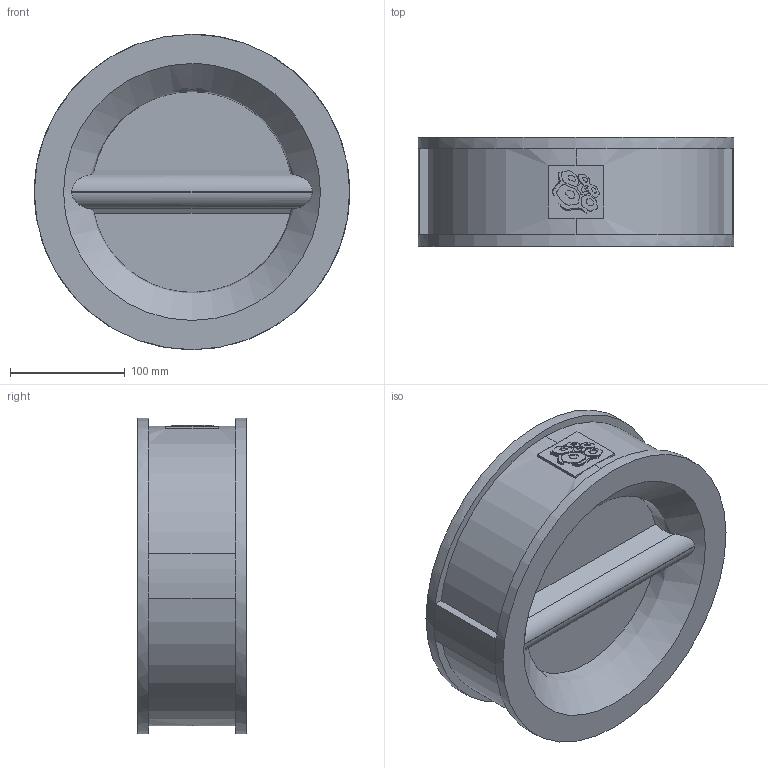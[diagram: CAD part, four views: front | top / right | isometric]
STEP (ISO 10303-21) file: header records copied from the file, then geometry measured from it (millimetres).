
FILE_DESCRIPTION(('STEP AP203'), '1');
FILE_NAME('3D_400-200-16', '', ('UNSPECIFIED'), ('UNSPECIFIED'), 'C3D Converter', 'C3D Toolkit', '');
FILE_SCHEMA(('CONFIG_CONTROL_DESIGN'));
Length unit declared in the file: millimetre
Bounding box: 275 x 95 x 275 mm (x, y, z)
Volume: 2365323.1 mm3; surface area: 316870.8 mm2
Topology: 1 solids, 2 shells, 882 faces, 2568 edges, 1705 vertices
Faces by surface type: plane 853, bspline 17, cylinder 11, torus 1
Full cylindrical faces by diameter (mm): 16.469 x1, 26.469 x1, 28 x1, 204 x1, 206 x1, 216 x1, 222 x1
Entity records: 40124 total; most frequent: CARTESIAN_POINT 9932, ORIENTED_EDGE 5108, DIRECTION 4243, EDGE_CURVE 2554, LINE 2469, VECTOR 2469, VERTEX_POINT 1705, EDGE_LOOP 915
